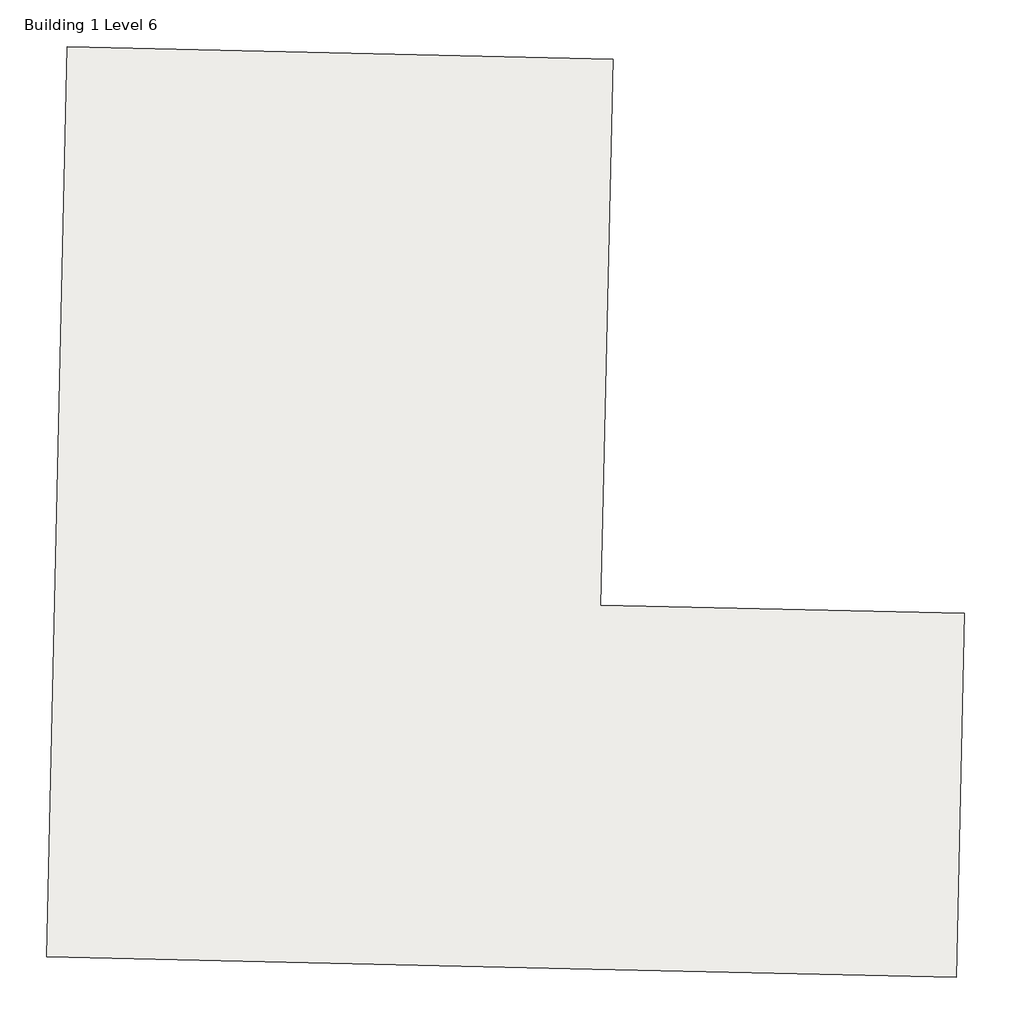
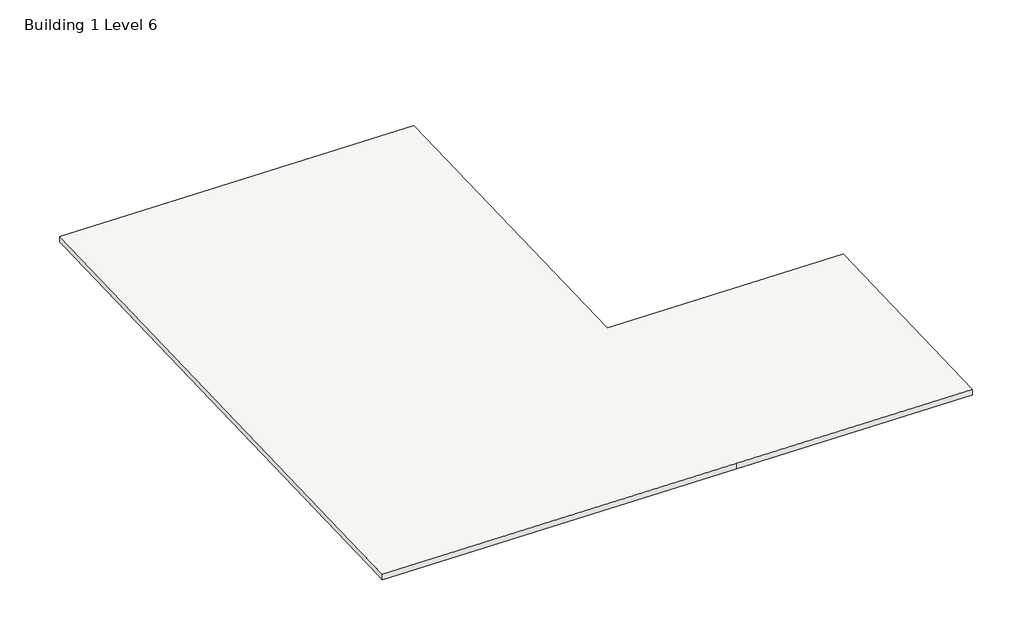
# One storey: 1 roof.
"""IFC4 building model written with IfcOpenShell, lengths in millimetres."""

from ifc_helpers import new_model, si_unit, origin, place, context, project, spatial, faceted_brep, element, save

model = new_model("IFC4")

# Units and contexts
model_context = context("Model", 3, world=origin())
ifc_project = project(units=[si_unit("LENGTHUNIT", "METRE", prefix="MILLI")], contexts=[model_context])

# Site, building, storey
site = spatial("IfcSite", under=ifc_project)
building = spatial("IfcBuilding", under=site)
storey = spatial("IfcBuildingStorey", under=building, Name="Building 1 Level 6", Elevation=19507.2)

# Roof
placement = place(None, origin())
element("IfcRoof", 1, ObjectType="Generic - 12\"", at=placement, inside=storey, context=model_context, shape_type="Brep", body=[
    faceted_brep([(-2269.9526045, -9378.6275538, 19202.4), (-20553.1210745, -8958.2767638, 19202.4), (-20543.9270502, -8558.3824404, 19202.4), (-19861.7304488, 21113.7763627, 19202.4), (-19852.5364245, 21513.6706862, 19202.4), (-1569.3679545, 21093.3198862, 19202.4), (-1578.5619788, 20693.4255627, 19202.4), (-1989.7187445, 2810.1514262, 19202.4), (7151.8654855, 2599.9760262, 19202.4), (10199.0602355, 2529.9175562, 19202.4), (10189.8662112, 2130.0232327, 19202.4), (9928.0203998, -9258.9670904, 19202.4), (9918.8263755, -9658.8614138, 19202.4), (-20553.1210745, -8958.2767638, 19507.2), (-2269.9526045, -9378.6275538, 19507.2), (9918.8263755, -9658.8614138, 19507.2), (10199.0602355, 2529.9175562, 19507.2), (7151.8654855, 2599.9760262, 19507.2), (-1989.7187445, 2810.1514262, 19507.2), (-1569.3679545, 21093.3198862, 19507.2), (-19852.5364245, 21513.6706862, 19507.2)], [[[0, 1, 2, 3, 4, 5, 6, 7, 8, 9, 10, 11, 12]], [[13, 14, 15, 16, 17, 18, 19, 20]], [[14, 13, 1, 0]], [[15, 14, 0, 12]], [[16, 15, 12, 11, 10, 9]], [[17, 16, 9, 8]], [[18, 17, 8, 7]], [[19, 18, 7, 6, 5]], [[20, 19, 5, 4]], [[13, 20, 4, 3, 2, 1]]]),
])

save(model, "model.ifc")
